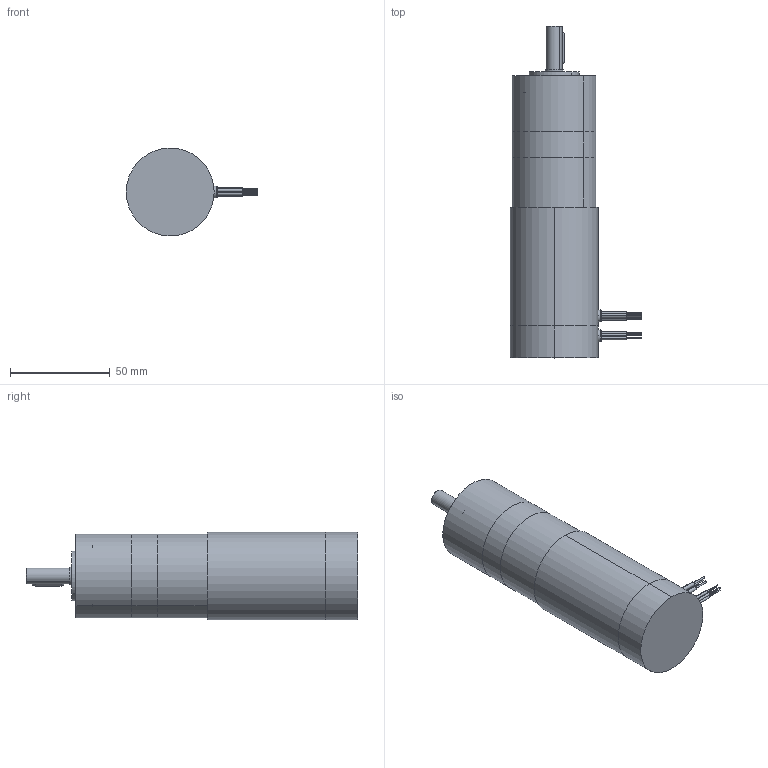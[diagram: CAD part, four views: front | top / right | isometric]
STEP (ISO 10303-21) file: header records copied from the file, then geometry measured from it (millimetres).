
FILE_DESCRIPTION (( 'STEP AP203' ), '1' );
FILE_NAME ('bl44297gp1.step', '2021-01-25T17:48:08', ( '' ), ( '' ), 'SwSTEP 2.0', 'SolidWorks 2017', '' );
FILE_SCHEMA (( 'CONFIG_CONTROL_DESIGN' ));
Length unit declared in the file: millimetre
Products named in the file (1): bl44297gp1
Bounding box: 65.82 x 166.14 x 44 mm (x, y, z)
Volume: 202882.1 mm3; surface area: 44621.6 mm2
Topology: 16 solids, 16 shells, 279 faces, 565 edges, 362 vertices
Faces by surface type: cylinder 138, plane 108, cone 29, torus 4
Entity records: 7447 total; most frequent: DIRECTION 1418, CARTESIAN_POINT 1255, ORIENTED_EDGE 1114, AXIS2_PLACEMENT_3D 585, EDGE_CURVE 557, VERTEX_POINT 362, EDGE_LOOP 341, CIRCLE 305
